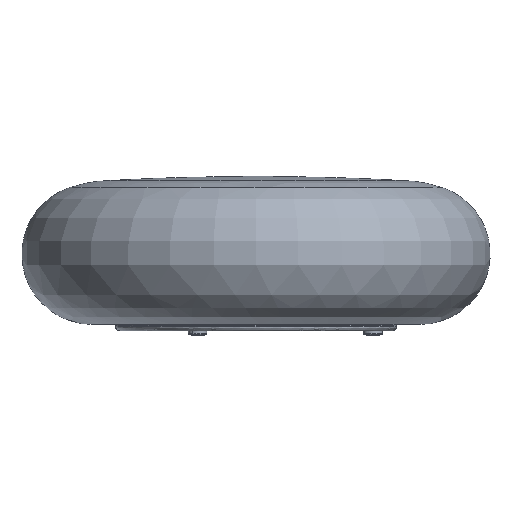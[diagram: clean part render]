
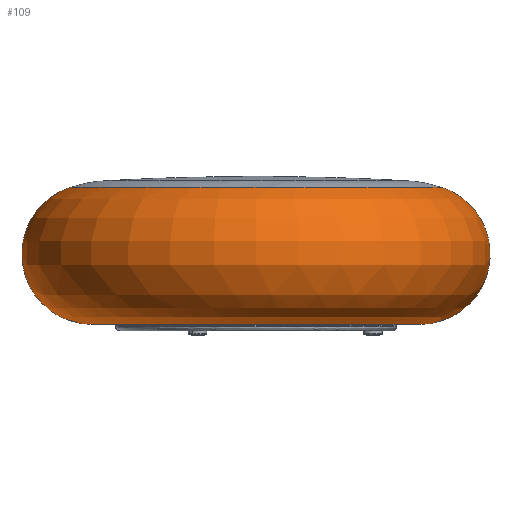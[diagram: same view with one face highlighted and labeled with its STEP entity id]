
A CAD part, front view. The second image highlights one B-rep face of the part: STEP entity #109.
In plain terms, the highlighted free-form (B-spline) face has degree [2, 2] with [5, 5] control points.
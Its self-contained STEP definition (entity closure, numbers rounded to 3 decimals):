
#109=ADVANCED_FACE('',(#243),#1597,.T.);
#243=FACE_OUTER_BOUND('',#385,.T.);
#385=EDGE_LOOP('',(#710,#711,#712,#713));
#710=ORIENTED_EDGE('',*,*,#1183,.T.);
#711=ORIENTED_EDGE('',*,*,#1187,.T.);
#712=ORIENTED_EDGE('',*,*,#1208,.F.);
#713=ORIENTED_EDGE('',*,*,#1207,.F.);
#1183=EDGE_CURVE('',#1441,#1442,#1837,.T.);
#1187=EDGE_CURVE('',#1442,#1444,#1841,.T.);
#1207=EDGE_CURVE('',#1441,#1456,#1859,.T.);
#1208=EDGE_CURVE('',#1456,#1444,#1860,.T.);
#1441=VERTEX_POINT('',#3594);
#1442=VERTEX_POINT('',#3595);
#1444=VERTEX_POINT('',#3597);
#1456=VERTEX_POINT('',#3609);
#1597=(
BOUNDED_SURFACE()
B_SPLINE_SURFACE(2,2,((#3298,#3299,#3300,#3301,#3302),(#3303,#3304,#3305,
#3306,#3307),(#3308,#3309,#3310,#3311,#3312),(#3313,#3314,#3315,#3316,#3317),
(#3318,#3319,#3320,#3321,#3322)),.UNSPECIFIED.,.F.,.F.,.F.)
B_SPLINE_SURFACE_WITH_KNOTS((3,2,3),(3,2,3),(0.,154.092,308.183),
(0.,518.317,1036.634),.UNSPECIFIED.)
GEOMETRIC_REPRESENTATION_ITEM()
RATIONAL_B_SPLINE_SURFACE(((1.,0.707,1.,0.707,1.),
(0.761,0.538,0.761,0.538,0.761),
(1.,0.707,1.,0.707,1.),(0.761,0.538,
0.761,0.538,0.761),(1.,0.707,
1.,0.707,1.)))
REPRESENTATION_ITEM('')
SURFACE()
);
#1837=(
BOUNDED_CURVE()
B_SPLINE_CURVE(2,(#3108,#3109,#3110,#3111,#3112),.UNSPECIFIED.,.F.,.F.)
B_SPLINE_CURVE_WITH_KNOTS((3,2,3),(-549.779,-274.889,0.),
.UNSPECIFIED.)
CURVE()
GEOMETRIC_REPRESENTATION_ITEM()
RATIONAL_B_SPLINE_CURVE((1.,0.707,1.,0.707,1.))
REPRESENTATION_ITEM('')
);
#1841=(
BOUNDED_CURVE()
B_SPLINE_CURVE(2,(#3128,#3129,#3130,#3131,#3132),.UNSPECIFIED.,.F.,.F.)
B_SPLINE_CURVE_WITH_KNOTS((3,2,3),(0.,154.092,308.183),
.UNSPECIFIED.)
CURVE()
GEOMETRIC_REPRESENTATION_ITEM()
RATIONAL_B_SPLINE_CURVE((1.,0.761,1.,0.761,1.))
REPRESENTATION_ITEM('')
);
#1859=(
BOUNDED_CURVE()
B_SPLINE_CURVE(2,(#3210,#3211,#3212,#3213,#3214),.UNSPECIFIED.,.F.,.F.)
B_SPLINE_CURVE_WITH_KNOTS((3,2,3),(0.,154.092,308.183),
.UNSPECIFIED.)
CURVE()
GEOMETRIC_REPRESENTATION_ITEM()
RATIONAL_B_SPLINE_CURVE((1.,0.761,1.,0.761,1.))
REPRESENTATION_ITEM('')
);
#1860=(
BOUNDED_CURVE()
B_SPLINE_CURVE(2,(#3215,#3216,#3217,#3218,#3219),.UNSPECIFIED.,.F.,.F.)
B_SPLINE_CURVE_WITH_KNOTS((3,2,3),(-1036.634,-518.317,0.),
.UNSPECIFIED.)
CURVE()
GEOMETRIC_REPRESENTATION_ITEM()
RATIONAL_B_SPLINE_CURVE((1.,0.707,1.,0.707,1.))
REPRESENTATION_ITEM('')
);
#3108=CARTESIAN_POINT('',(-121.901,-40.116,-156.557));
#3109=CARTESIAN_POINT('',(-121.901,-215.116,-156.557));
#3110=CARTESIAN_POINT('',(53.099,-215.116,-156.557));
#3111=CARTESIAN_POINT('',(228.099,-215.116,-156.557));
#3112=CARTESIAN_POINT('',(228.099,-40.116,-156.557));
#3128=CARTESIAN_POINT('',(228.099,-40.116,-156.557));
#3129=CARTESIAN_POINT('',(292.059,-40.116,-156.557));
#3130=CARTESIAN_POINT('',(302.158,-40.116,-93.399));
#3131=CARTESIAN_POINT('',(312.258,-40.116,-30.242));
#3132=CARTESIAN_POINT('',(251.487,-40.116,-10.297));
#3210=CARTESIAN_POINT('',(-121.901,-40.116,-156.557));
#3211=CARTESIAN_POINT('',(-185.861,-40.116,-156.557));
#3212=CARTESIAN_POINT('',(-195.96,-40.116,-93.399));
#3213=CARTESIAN_POINT('',(-206.059,-40.116,-30.242));
#3214=CARTESIAN_POINT('',(-145.289,-40.116,-10.297));
#3215=CARTESIAN_POINT('',(-145.289,-40.116,-10.297));
#3216=CARTESIAN_POINT('',(-145.289,-238.504,-10.297));
#3217=CARTESIAN_POINT('',(53.099,-238.504,-10.297));
#3218=CARTESIAN_POINT('',(251.487,-238.504,-10.297));
#3219=CARTESIAN_POINT('',(251.487,-40.116,-10.297));
#3298=CARTESIAN_POINT('',(228.099,-40.116,-156.557));
#3299=CARTESIAN_POINT('',(228.099,-215.116,-156.557));
#3300=CARTESIAN_POINT('',(53.099,-215.116,-156.557));
#3301=CARTESIAN_POINT('',(-121.901,-215.116,-156.557));
#3302=CARTESIAN_POINT('',(-121.901,-40.116,-156.557));
#3303=CARTESIAN_POINT('',(292.059,-40.116,-156.557));
#3304=CARTESIAN_POINT('',(292.059,-279.076,-156.557));
#3305=CARTESIAN_POINT('',(53.099,-279.076,-156.557));
#3306=CARTESIAN_POINT('',(-185.861,-279.076,-156.557));
#3307=CARTESIAN_POINT('',(-185.861,-40.116,-156.557));
#3308=CARTESIAN_POINT('',(302.158,-40.116,-93.399));
#3309=CARTESIAN_POINT('',(302.158,-289.175,-93.399));
#3310=CARTESIAN_POINT('',(53.099,-289.175,-93.399));
#3311=CARTESIAN_POINT('',(-195.96,-289.175,-93.399));
#3312=CARTESIAN_POINT('',(-195.96,-40.116,-93.399));
#3313=CARTESIAN_POINT('',(312.258,-40.116,-30.242));
#3314=CARTESIAN_POINT('',(312.258,-299.274,-30.242));
#3315=CARTESIAN_POINT('',(53.099,-299.274,-30.242));
#3316=CARTESIAN_POINT('',(-206.059,-299.274,-30.242));
#3317=CARTESIAN_POINT('',(-206.059,-40.116,-30.242));
#3318=CARTESIAN_POINT('',(251.487,-40.116,-10.297));
#3319=CARTESIAN_POINT('',(251.487,-238.504,-10.297));
#3320=CARTESIAN_POINT('',(53.099,-238.504,-10.297));
#3321=CARTESIAN_POINT('',(-145.289,-238.504,-10.297));
#3322=CARTESIAN_POINT('',(-145.289,-40.116,-10.297));
#3594=CARTESIAN_POINT('',(-121.901,-40.116,-156.557));
#3595=CARTESIAN_POINT('',(228.099,-40.116,-156.557));
#3597=CARTESIAN_POINT('',(251.487,-40.116,-10.297));
#3609=CARTESIAN_POINT('',(-145.289,-40.116,-10.297));
